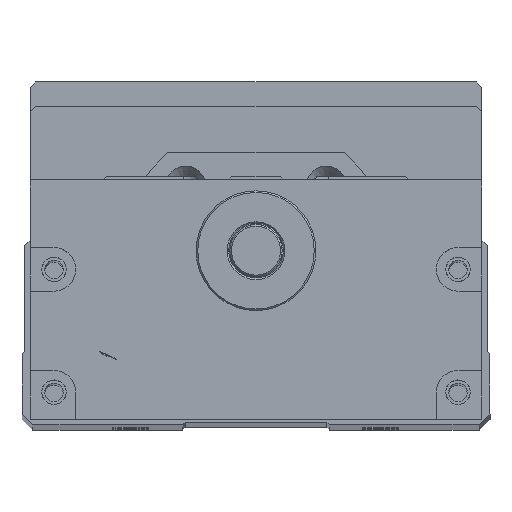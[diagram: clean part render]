
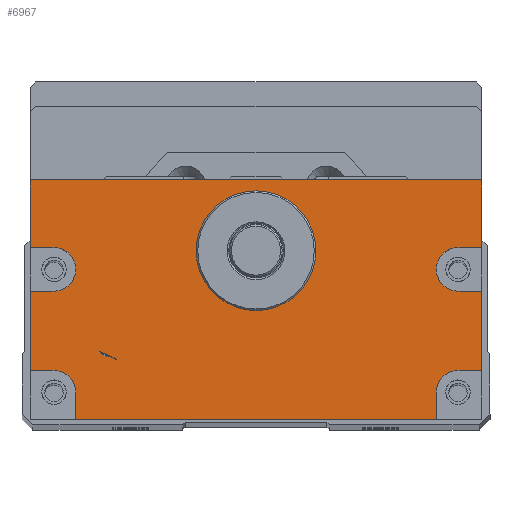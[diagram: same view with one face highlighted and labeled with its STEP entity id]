
A CAD part, top view. The second image highlights one B-rep face of the part: STEP entity #6967.
In plain terms, the highlighted planar face has unit normal (0, 0, 1).
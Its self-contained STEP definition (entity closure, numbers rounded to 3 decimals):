
#590=LINE('',#27844,#1259);
#592=LINE('',#27848,#1261);
#593=LINE('',#27851,#1262);
#594=LINE('',#27853,#1263);
#595=LINE('',#27857,#1264);
#596=LINE('',#27859,#1265);
#597=LINE('',#27860,#1266);
#598=LINE('',#27862,#1267);
#599=LINE('',#27866,#1268);
#600=LINE('',#27868,#1269);
#601=LINE('',#27870,#1270);
#602=LINE('',#27874,#1271);
#603=LINE('',#27876,#1272);
#604=LINE('',#27878,#1273);
#1259=VECTOR('',#16398,1.);
#1261=VECTOR('',#16402,1.);
#1262=VECTOR('',#16403,1.);
#1263=VECTOR('',#16404,1.);
#1264=VECTOR('',#16407,1.);
#1265=VECTOR('',#16408,1.);
#1266=VECTOR('',#16409,1.);
#1267=VECTOR('',#16410,1.);
#1268=VECTOR('',#16413,1.);
#1269=VECTOR('',#16414,1.);
#1270=VECTOR('',#16415,1.);
#1271=VECTOR('',#16418,1.);
#1272=VECTOR('',#16419,1.);
#1273=VECTOR('',#16420,1.);
#6967=ADVANCED_FACE('',(#7840,#7841),#7445,.T.);
#7445=PLANE('',#14899);
#7840=FACE_BOUND('',#8422,.T.);
#7841=FACE_BOUND('',#8423,.T.);
#8422=EDGE_LOOP('',(#9901,#9902,#9903,#9904,#9905,#9906,#9907,#9908,#9909,
#9910,#9911,#9912,#9913,#9914,#9915,#9916,#9917,#9918));
#8423=EDGE_LOOP('',(#9919));
#9901=ORIENTED_EDGE('',*,*,#13224,.F.);
#9902=ORIENTED_EDGE('',*,*,#13225,.T.);
#9903=ORIENTED_EDGE('',*,*,#13226,.F.);
#9904=ORIENTED_EDGE('',*,*,#13227,.F.);
#9905=ORIENTED_EDGE('',*,*,#13228,.F.);
#9906=ORIENTED_EDGE('',*,*,#13229,.T.);
#9907=ORIENTED_EDGE('',*,*,#13222,.T.);
#9908=ORIENTED_EDGE('',*,*,#13230,.T.);
#9909=ORIENTED_EDGE('',*,*,#13231,.F.);
#9910=ORIENTED_EDGE('',*,*,#13232,.F.);
#9911=ORIENTED_EDGE('',*,*,#13233,.F.);
#9912=ORIENTED_EDGE('',*,*,#13234,.T.);
#9913=ORIENTED_EDGE('',*,*,#13235,.F.);
#9914=ORIENTED_EDGE('',*,*,#13236,.F.);
#9915=ORIENTED_EDGE('',*,*,#13237,.F.);
#9916=ORIENTED_EDGE('',*,*,#13238,.T.);
#9917=ORIENTED_EDGE('',*,*,#13239,.F.);
#9918=ORIENTED_EDGE('',*,*,#13240,.F.);
#9919=ORIENTED_EDGE('',*,*,#13208,.T.);
#12085=VERTEX_POINT('',#27815);
#12098=VERTEX_POINT('',#27843);
#12099=VERTEX_POINT('',#27845);
#12100=VERTEX_POINT('',#27849);
#12101=VERTEX_POINT('',#27850);
#12102=VERTEX_POINT('',#27852);
#12103=VERTEX_POINT('',#27854);
#12104=VERTEX_POINT('',#27856);
#12105=VERTEX_POINT('',#27858);
#12106=VERTEX_POINT('',#27861);
#12107=VERTEX_POINT('',#27863);
#12108=VERTEX_POINT('',#27865);
#12109=VERTEX_POINT('',#27867);
#12110=VERTEX_POINT('',#27869);
#12111=VERTEX_POINT('',#27871);
#12112=VERTEX_POINT('',#27873);
#12113=VERTEX_POINT('',#27875);
#12114=VERTEX_POINT('',#27877);
#12115=VERTEX_POINT('',#27879);
#13208=EDGE_CURVE('',#12085,#12085,#14289,.T.);
#13222=EDGE_CURVE('',#12099,#12098,#590,.T.);
#13224=EDGE_CURVE('',#12100,#12101,#592,.T.);
#13225=EDGE_CURVE('',#12100,#12102,#593,.T.);
#13226=EDGE_CURVE('',#12103,#12102,#594,.T.);
#13227=EDGE_CURVE('',#12104,#12103,#14298,.T.);
#13228=EDGE_CURVE('',#12105,#12104,#595,.T.);
#13229=EDGE_CURVE('',#12105,#12099,#596,.T.);
#13230=EDGE_CURVE('',#12098,#12106,#597,.T.);
#13231=EDGE_CURVE('',#12107,#12106,#598,.T.);
#13232=EDGE_CURVE('',#12108,#12107,#14299,.T.);
#13233=EDGE_CURVE('',#12109,#12108,#599,.T.);
#13234=EDGE_CURVE('',#12109,#12110,#600,.T.);
#13235=EDGE_CURVE('',#12111,#12110,#601,.T.);
#13236=EDGE_CURVE('',#12112,#12111,#14300,.T.);
#13237=EDGE_CURVE('',#12113,#12112,#602,.T.);
#13238=EDGE_CURVE('',#12113,#12114,#603,.T.);
#13239=EDGE_CURVE('',#12115,#12114,#604,.T.);
#13240=EDGE_CURVE('',#12101,#12115,#14301,.T.);
#14289=CIRCLE('',#14883,11.);
#14298=CIRCLE('',#14895,4.);
#14299=CIRCLE('',#14896,4.);
#14300=CIRCLE('',#14897,4.);
#14301=CIRCLE('',#14898,4.);
#14883=AXIS2_PLACEMENT_3D('',#27814,#16371,#16372);
#14895=AXIS2_PLACEMENT_3D('',#27855,#16405,#16406);
#14896=AXIS2_PLACEMENT_3D('',#27864,#16411,#16412);
#14897=AXIS2_PLACEMENT_3D('',#27872,#16416,#16417);
#14898=AXIS2_PLACEMENT_3D('',#27880,#16421,#16422);
#14899=AXIS2_PLACEMENT_3D('',#27881,#16423,#16424);
#16371=DIRECTION('',(0.,0.,-1.));
#16372=DIRECTION('',(1.,0.,0.));
#16398=DIRECTION('',(-1.,0.,0.));
#16402=DIRECTION('',(-1.,0.,0.));
#16403=DIRECTION('',(0.,1.,0.));
#16404=DIRECTION('',(1.,0.,0.));
#16405=DIRECTION('',(0.,0.,1.));
#16406=DIRECTION('',(1.,0.,0.));
#16407=DIRECTION('',(-1.,0.,0.));
#16408=DIRECTION('',(0.,1.,0.));
#16409=DIRECTION('',(0.,-1.,0.));
#16410=DIRECTION('',(-1.,0.,0.));
#16411=DIRECTION('',(0.,0.,1.));
#16412=DIRECTION('',(1.,0.,0.));
#16413=DIRECTION('',(1.,0.,0.));
#16414=DIRECTION('',(0.,-1.,0.));
#16415=DIRECTION('',(-1.,0.,0.));
#16416=DIRECTION('',(0.,0.,1.));
#16417=DIRECTION('',(1.,0.,0.));
#16418=DIRECTION('',(0.,1.,0.));
#16419=DIRECTION('',(1.,0.,0.));
#16420=DIRECTION('',(0.,-1.,0.));
#16421=DIRECTION('',(0.,0.,1.));
#16422=DIRECTION('',(1.,0.,0.));
#16423=DIRECTION('',(0.,0.,1.));
#16424=DIRECTION('',(1.,0.,0.));
#27814=CARTESIAN_POINT('',(450.,0.,382.5));
#27815=CARTESIAN_POINT('',(461.,0.,382.5));
#27843=CARTESIAN_POINT('',(408.5,13.,382.5));
#27844=CARTESIAN_POINT('',(491.5,13.,382.5));
#27845=CARTESIAN_POINT('',(491.5,13.,382.5));
#27848=CARTESIAN_POINT('',(491.5,-22.,382.5));
#27849=CARTESIAN_POINT('',(491.5,-22.,382.5));
#27850=CARTESIAN_POINT('',(487.115,-22.,382.5));
#27851=CARTESIAN_POINT('',(491.5,-31.,382.5));
#27852=CARTESIAN_POINT('',(491.5,-7.431,382.5));
#27853=CARTESIAN_POINT('',(491.5,-7.431,382.5));
#27854=CARTESIAN_POINT('',(487.115,-7.431,382.5));
#27855=CARTESIAN_POINT('',(487.115,-3.431,382.5));
#27856=CARTESIAN_POINT('',(487.115,0.569,382.5));
#27857=CARTESIAN_POINT('',(491.5,0.569,382.5));
#27858=CARTESIAN_POINT('',(491.5,0.569,382.5));
#27859=CARTESIAN_POINT('',(491.5,-31.,382.5));
#27860=CARTESIAN_POINT('',(408.5,27.5,382.5));
#27861=CARTESIAN_POINT('',(408.5,0.569,382.5));
#27862=CARTESIAN_POINT('',(491.5,0.569,382.5));
#27863=CARTESIAN_POINT('',(412.885,0.569,382.5));
#27864=CARTESIAN_POINT('',(412.885,-3.431,382.5));
#27865=CARTESIAN_POINT('',(412.885,-7.431,382.5));
#27866=CARTESIAN_POINT('',(491.5,-7.431,382.5));
#27867=CARTESIAN_POINT('',(408.5,-7.431,382.5));
#27868=CARTESIAN_POINT('',(408.5,27.5,382.5));
#27869=CARTESIAN_POINT('',(408.5,-22.,382.5));
#27870=CARTESIAN_POINT('',(491.5,-22.,382.5));
#27871=CARTESIAN_POINT('',(412.885,-22.,382.5));
#27872=CARTESIAN_POINT('',(412.885,-26.,382.5));
#27873=CARTESIAN_POINT('',(416.885,-26.,382.5));
#27874=CARTESIAN_POINT('',(416.885,-31.,382.5));
#27875=CARTESIAN_POINT('',(416.885,-31.,382.5));
#27876=CARTESIAN_POINT('',(408.5,-31.,382.5));
#27877=CARTESIAN_POINT('',(483.115,-31.,382.5));
#27878=CARTESIAN_POINT('',(483.115,-31.,382.5));
#27879=CARTESIAN_POINT('',(483.115,-26.,382.5));
#27880=CARTESIAN_POINT('',(487.115,-26.,382.5));
#27881=CARTESIAN_POINT('',(491.5,-31.,382.5));
